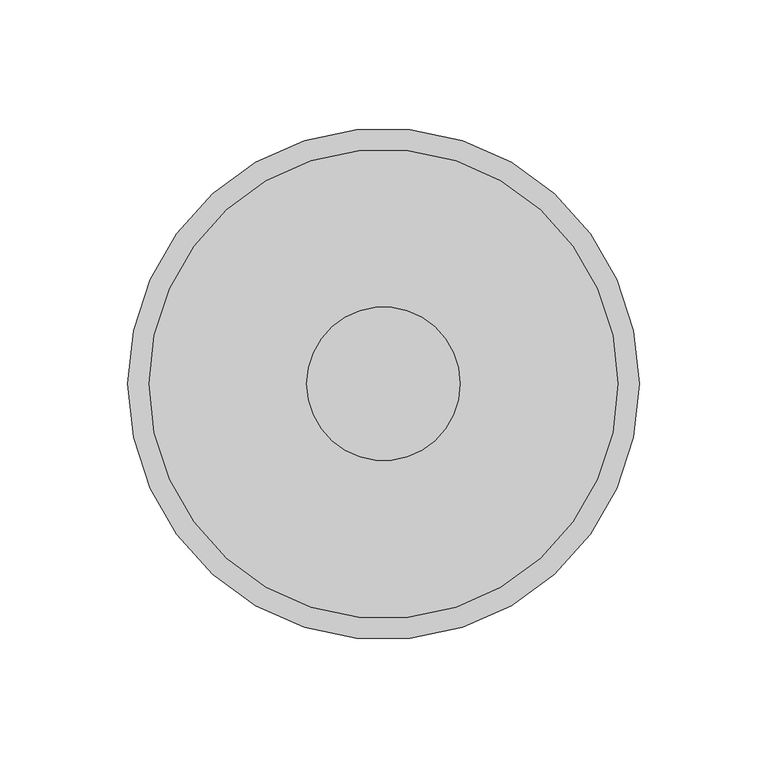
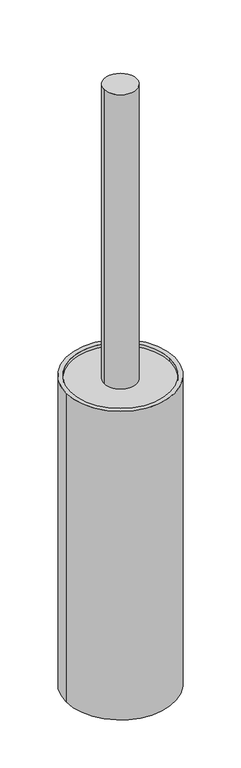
"""IFC4 building model written with IfcOpenShell, lengths in millimetres: proxy geometry, Versenkbarer Poller : Versenkbarer Poller."""

from ifc_helpers import new_model, si_unit, point, frame, origin, origin_2d, place, context, project, spatial, circle_curve, trimmed, segment, composite_curve, outline, extrude, source, transform, mapped, element, save


def electrical_equipment_3768a2da(model_context):
    return source(origin(), model_context, "Body", "SweptSolid", [
        extrude(outline(composite_curve([segment(trimmed(circle_curve(origin_2d(), 30.0), [point((-30.0, 0.0))], [point((30.0, 0.0))], False, "CARTESIAN"), True, "CONTINUOUS"), segment(trimmed(circle_curve(origin_2d(), 30.0), [point((30.0, 0.0))], [point((-30.0, 0.0))], False, "CARTESIAN"), True, "CONTINUOUS")], self_intersect=False)), frame((0.0, 0.0, -33.5699183), z_axis=(0.0, 0.0, 1.0), x_axis=(1.0, 0.0, 0.0)), (0.0, 0.0, 1.0), 600.0),
        extrude(outline(composite_curve([segment(trimmed(circle_curve(origin_2d(), 91.6666667), [point((-91.6666667, 0.0))], [point((91.6666667, 0.0))], False, "CARTESIAN"), True, "CONTINUOUS"), segment(trimmed(circle_curve(origin_2d(), 91.6666667), [point((91.6666667, 0.0))], [point((-91.6666667, 0.0))], False, "CARTESIAN"), True, "CONTINUOUS")], self_intersect=False)), frame((0.0, 0.0, -24.2291079), z_axis=(0.0, 0.0, 1.0), x_axis=(1.0, 0.0, 0.0)), (0.0, 0.0, 1.0), 18.6137407),
        extrude(outline(composite_curve([segment(trimmed(circle_curve(origin_2d(), 91.6666667), [point((-91.6666667, 0.0))], [point((91.6666667, 0.0))], False, "CARTESIAN"), True, "CONTINUOUS"), segment(trimmed(circle_curve(origin_2d(), 91.6666667), [point((91.6666667, 0.0))], [point((-91.6666667, 0.0))], False, "CARTESIAN"), True, "CONTINUOUS")], self_intersect=False)), frame((0.0, 0.0, -600.0), z_axis=(0.0, 0.0, 1.0), x_axis=(1.0, 0.0, 0.0)), (0.0, 0.0, 1.0), 23.9600492),
        extrude(outline(composite_curve([segment(trimmed(circle_curve(origin_2d(), 100.0), [point((-100.0, 0.0))], [point((100.0, 0.0))], False, "CARTESIAN"), True, "CONTINUOUS"), segment(trimmed(circle_curve(origin_2d(), 100.0), [point((100.0, 0.0))], [point((-100.0, 0.0))], False, "CARTESIAN"), True, "CONTINUOUS")], self_intersect=False), holes=[composite_curve([segment(trimmed(circle_curve(origin_2d(), 91.6666667), [point((-91.6666667, 0.0))], [point((91.6666667, 0.0))], True, "CARTESIAN"), True, "CONTINUOUS"), segment(trimmed(circle_curve(origin_2d(), 91.6666667), [point((91.6666667, 0.0))], [point((-91.6666667, 0.0))], True, "CARTESIAN"), True, "CONTINUOUS")], self_intersect=False)]), frame((0.0, 0.0, -600.0), z_axis=(0.0, 0.0, 1.0), x_axis=(1.0, 0.0, 0.0)), (0.0, 0.0, 1.0), 600.0),
    ])


if __name__ == "__main__":
    model = new_model("IFC4")
    model_context = context("Model", 3, world=origin())
    ifc_project = project(units=[si_unit("LENGTHUNIT", "METRE", prefix="MILLI")], contexts=[model_context])
    site = spatial("IfcSite", under=ifc_project)
    building = spatial("IfcBuilding", under=site)
    placement = place(None, origin())
    electrical_equipment_shape = electrical_equipment_3768a2da(model_context)
    element("IfcBuildingElementProxy", 1, Name="Versenkbarer Poller : Versenkbarer Poller", ObjectType="Versenkbarer Poller : Versenkbarer Poller", at=placement, inside=building, context=model_context, shape_type="MappedRepresentation", body=[
        mapped(electrical_equipment_shape, transform((0.0, 0.0, 0.0), x_axis=(1.0, 0.0, 0.0), y_axis=(0.0, 1.0, 0.0), z_axis=(0.0, 0.0, 1.0))),
    ])
    save(model, "model.ifc")
